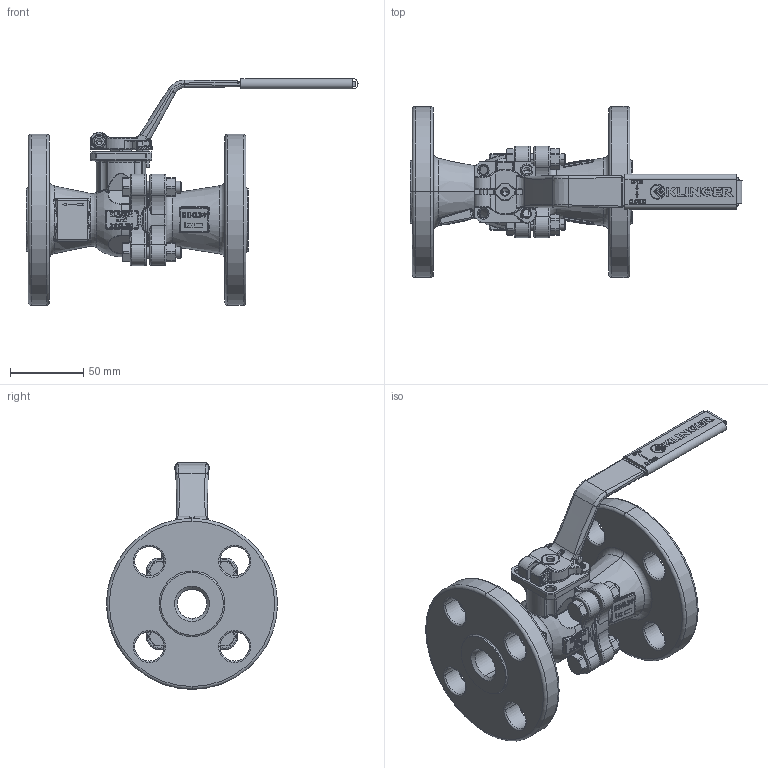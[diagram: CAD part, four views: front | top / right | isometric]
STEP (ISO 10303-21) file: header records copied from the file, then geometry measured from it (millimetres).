
FILE_DESCRIPTION((''),'2;1');
FILE_NAME('KHEFS-34VFS-34C300PKK','2015-08-11T',('mahrhauserh'),('RAND'),'PRO/ENGINEER BY PARAMETRIC TECHNOLOGY CORPORATION, 2013410','PRO/ENGINEER BY PARAMETRIC TECHNOLOGY CORPORATION, 2013410','');
FILE_SCHEMA(('CONFIG_CONTROL_DESIGN'));
Products named in the file (1): KHEFS-34VFS-34C300PKK
Bounding box: 227 x 117 x 155.05 mm (x, y, z)
Volume: 494805.3 mm3; surface area: 130149.1 mm2
Topology: 1 solids, 2 shells, 3312 faces, 8532 edges, 5343 vertices
Faces by surface type: plane 1892, cylinder 493, bspline 359, torus 320, cone 202, sphere 46
Entity records: 131923 total; most frequent: CARTESIAN_POINT 53153, ORIENTED_EDGE 17032, DIRECTION 15521, EDGE_CURVE 8516, VECTOR 5485, LINE 5485, VERTEX_POINT 5343, AXIS2_PLACEMENT_3D 5018
